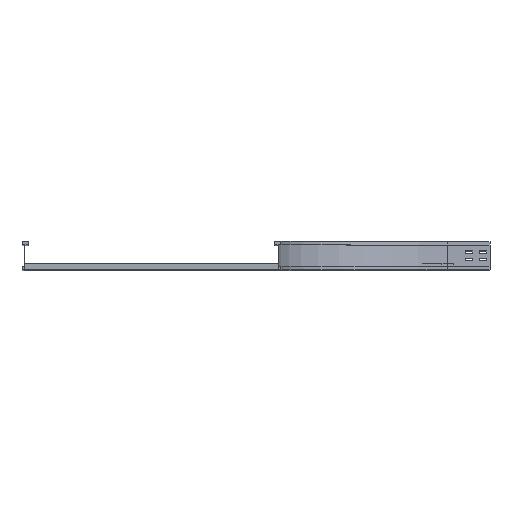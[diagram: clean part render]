
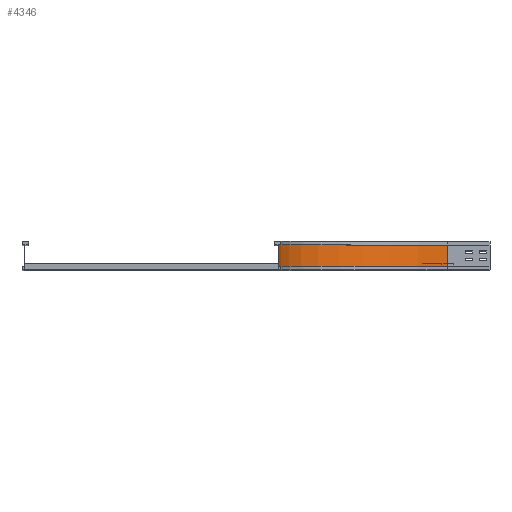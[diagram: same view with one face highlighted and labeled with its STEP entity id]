
A CAD part, top view. The second image highlights one B-rep face of the part: STEP entity #4346.
In plain terms, the highlighted cylindrical face has radius 600 mm (diameter 1200 mm), a partial arc.
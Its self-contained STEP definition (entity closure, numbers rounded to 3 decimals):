
#26 = VECTOR ( 'NONE', #560, 1000. ) ;
#560 = DIRECTION ( 'NONE',  ( 0., 1., 0. ) ) ;
#595 = CARTESIAN_POINT ( 'NONE',  ( 591., 88., -150. ) ) ;
#616 = VERTEX_POINT ( 'NONE', #4516 ) ;
#661 = DIRECTION ( 'NONE',  ( 0., 0., -1. ) ) ;
#960 = LINE ( 'NONE', #3855, #3511 ) ;
#1092 = CYLINDRICAL_SURFACE ( 'NONE', #3024, 600. ) ;
#1405 = AXIS2_PLACEMENT_3D ( 'NONE', #2262, #2572, #3730 ) ;
#1683 = DIRECTION ( 'NONE',  ( 0., -1., 0. ) ) ;
#1734 = DIRECTION ( 'NONE',  ( -1., 0., 0. ) ) ;
#1748 = DIRECTION ( 'NONE',  ( 0., -1., 0. ) ) ;
#1999 = DIRECTION ( 'NONE',  ( 0., 1., 0. ) ) ;
#2038 = VERTEX_POINT ( 'NONE', #4741 ) ;
#2247 = EDGE_CURVE ( 'NONE', #3474, #4662, #3540, .T. ) ;
#2262 = CARTESIAN_POINT ( 'NONE',  ( 591., 12., -150. ) ) ;
#2572 = DIRECTION ( 'NONE',  ( 0., -1., 0. ) ) ;
#2607 = CIRCLE ( 'NONE', #2672, 600. ) ;
#2672 = AXIS2_PLACEMENT_3D ( 'NONE', #595, #1683, #1734 ) ;
#2701 = ORIENTED_EDGE ( 'NONE', *, *, #3682, .T. ) ;
#2785 = CARTESIAN_POINT ( 'NONE',  ( -9., 12., -150. ) ) ;
#2876 = ORIENTED_EDGE ( 'NONE', *, *, #3378, .F. ) ;
#2936 = EDGE_LOOP ( 'NONE', ( #2876, #4157, #3166, #2701 ) ) ;
#3024 = AXIS2_PLACEMENT_3D ( 'NONE', #4737, #1748, #661 ) ;
#3166 = ORIENTED_EDGE ( 'NONE', *, *, #2247, .T. ) ;
#3182 = FACE_OUTER_BOUND ( 'NONE', #2936, .T. ) ;
#3365 = EDGE_CURVE ( 'NONE', #3474, #2038, #960, .T. ) ;
#3378 = EDGE_CURVE ( 'NONE', #2038, #616, #2607, .T. ) ;
#3474 = VERTEX_POINT ( 'NONE', #2785 ) ;
#3511 = VECTOR ( 'NONE', #1999, 1000. ) ;
#3540 = CIRCLE ( 'NONE', #1405, 600. ) ;
#3682 = EDGE_CURVE ( 'NONE', #4662, #616, #4107, .T. ) ;
#3730 = DIRECTION ( 'NONE',  ( -1., 0., 0. ) ) ;
#3855 = CARTESIAN_POINT ( 'NONE',  ( -9., 12., -150. ) ) ;
#4107 = LINE ( 'NONE', #4192, #26 ) ;
#4157 = ORIENTED_EDGE ( 'NONE', *, *, #3365, .F. ) ;
#4192 = CARTESIAN_POINT ( 'NONE',  ( 591., 12., -750. ) ) ;
#4283 = CARTESIAN_POINT ( 'NONE',  ( 591., 12., -750. ) ) ;
#4346 = ADVANCED_FACE ( 'NONE', ( #3182 ), #1092, .F. ) ;
#4516 = CARTESIAN_POINT ( 'NONE',  ( 591., 88., -750. ) ) ;
#4662 = VERTEX_POINT ( 'NONE', #4283 ) ;
#4737 = CARTESIAN_POINT ( 'NONE',  ( 591., 0., -150. ) ) ;
#4741 = CARTESIAN_POINT ( 'NONE',  ( -9., 88., -150. ) ) ;
